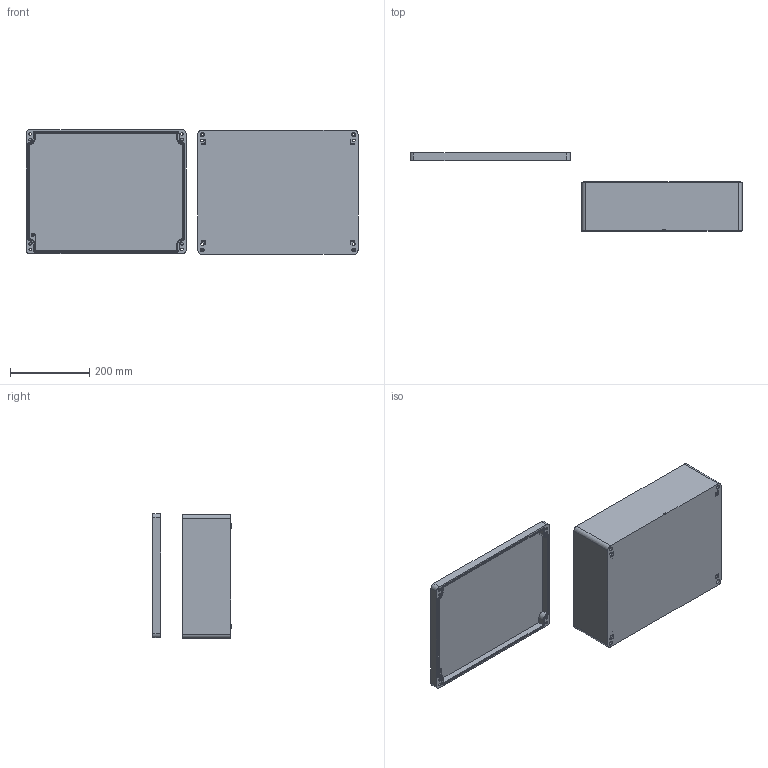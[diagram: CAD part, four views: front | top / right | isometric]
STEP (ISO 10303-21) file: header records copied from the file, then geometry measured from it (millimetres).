
FILE_DESCRIPTION (( 'STEP AP203' ), '1' );
FILE_NAME ('ZX-AL-314014_装配体.STEP', '2022-01-24T09:51:35', ( '微软用户' ), ( '微软中国' ), 'SwSTEP 2.0', 'SolidWorks 2020', '' );
FILE_SCHEMA (( 'CONFIG_CONTROL_DESIGN' ));
Length unit declared in the file: millimetre
Products named in the file (3): ZX-AL-314014_奻; ZX-AL-314014_狟; ZX-AL-314014_蚾饜极
Assembly tree (2 placements, depth 2):
  ZX-AL-314014_蚾饜极
    ZX-AL-314014_狟
    ZX-AL-314014_奻
Bounding box: 835.8 x 197.81 x 313.52 mm (x, y, z)
Volume: 2716164.5 mm3; surface area: 923662.3 mm2
Topology: 2 solids, 2 shells, 669 faces, 1790 edges, 1157 vertices
Faces by surface type: plane 322, cylinder 172, bspline 123, cone 52
Entity records: 26559 total; most frequent: CARTESIAN_POINT 10250, ORIENTED_EDGE 3536, DIRECTION 2926, EDGE_CURVE 1768, LINE 1172, VECTOR 1172, VERTEX_POINT 1157, AXIS2_PLACEMENT_3D 877
